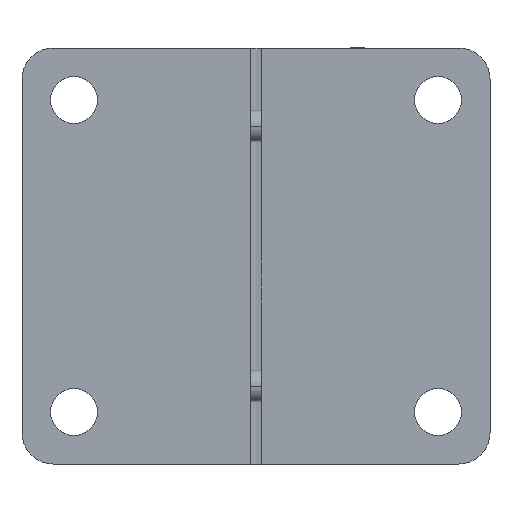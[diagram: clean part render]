
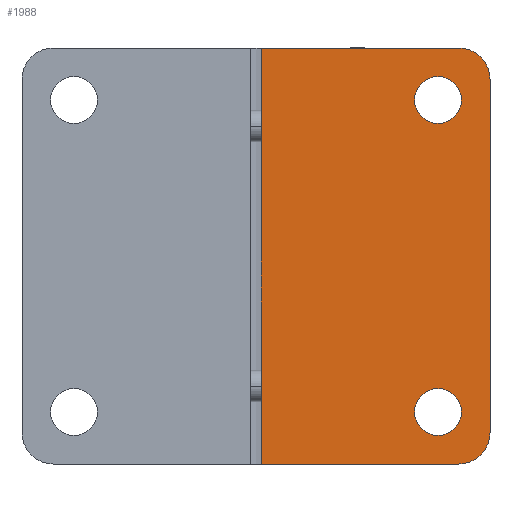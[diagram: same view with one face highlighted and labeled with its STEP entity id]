
A CAD part, front view. The second image highlights one B-rep face of the part: STEP entity #1988.
In plain terms, the highlighted planar face has unit normal (0, -1, 0).
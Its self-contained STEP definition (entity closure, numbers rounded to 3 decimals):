
#34 = DIRECTION ( 'NONE',  ( 1., 0., 0. ) ) ;
#260 = CARTESIAN_POINT ( 'NONE',  ( 35., -25., 74.5 ) ) ;
#342 = DIRECTION ( 'NONE',  ( 0., 0., -1. ) ) ;
#400 = ORIENTED_EDGE ( 'NONE', *, *, #3638, .F. ) ;
#416 = CARTESIAN_POINT ( 'NONE',  ( 35., -25., 65.5 ) ) ;
#421 = CIRCLE ( 'NONE', #3503, 4.5 ) ;
#433 = EDGE_CURVE ( 'NONE', #3967, #3325, #5855, .T. ) ;
#444 = ORIENTED_EDGE ( 'NONE', *, *, #2948, .T. ) ;
#670 = CARTESIAN_POINT ( 'NONE',  ( 39., -25., 74. ) ) ;
#732 = CIRCLE ( 'NONE', #1476, 4.5 ) ;
#748 = DIRECTION ( 'NONE',  ( 0., 0., -1. ) ) ;
#847 = AXIS2_PLACEMENT_3D ( 'NONE', #5738, #2951, #5778 ) ;
#852 = CARTESIAN_POINT ( 'NONE',  ( 1., -25., 80. ) ) ;
#862 = EDGE_CURVE ( 'NONE', #1994, #4818, #732, .T. ) ;
#893 = EDGE_LOOP ( 'NONE', ( #2890, #3674 ) ) ;
#987 = CIRCLE ( 'NONE', #5992, 6. ) ;
#997 = AXIS2_PLACEMENT_3D ( 'NONE', #2511, #5746, #1055 ) ;
#1055 = DIRECTION ( 'NONE',  ( 0., 0., -1. ) ) ;
#1092 = FACE_OUTER_BOUND ( 'NONE', #5487, .T. ) ;
#1099 = DIRECTION ( 'NONE',  ( 0., 0., -1. ) ) ;
#1101 = VECTOR ( 'NONE', #3318, 1000. ) ;
#1133 = VERTEX_POINT ( 'NONE', #1722 ) ;
#1249 = VERTEX_POINT ( 'NONE', #5650 ) ;
#1253 = CARTESIAN_POINT ( 'NONE',  ( 35., -25., 70. ) ) ;
#1383 = EDGE_CURVE ( 'NONE', #1249, #2323, #3600, .T. ) ;
#1441 = CIRCLE ( 'NONE', #2342, 4.5 ) ;
#1446 = CARTESIAN_POINT ( 'NONE',  ( 35., -25., 10. ) ) ;
#1458 = FACE_BOUND ( 'NONE', #5360, .T. ) ;
#1476 = AXIS2_PLACEMENT_3D ( 'NONE', #1446, #3812, #2389 ) ;
#1504 = VECTOR ( 'NONE', #342, 1000. ) ;
#1590 = CARTESIAN_POINT ( 'NONE',  ( 35., -25., 14.5 ) ) ;
#1722 = CARTESIAN_POINT ( 'NONE',  ( 39., -25., 80. ) ) ;
#1759 = DIRECTION ( 'NONE',  ( 0., 1., 0. ) ) ;
#1837 = CARTESIAN_POINT ( 'NONE',  ( 0., -25., 0. ) ) ;
#1900 = EDGE_CURVE ( 'NONE', #2323, #2056, #2350, .T. ) ;
#1910 = ORIENTED_EDGE ( 'NONE', *, *, #433, .T. ) ;
#1913 = CARTESIAN_POINT ( 'NONE',  ( 39., -25., 6. ) ) ;
#1988 = ADVANCED_FACE ( 'NONE', ( #2340, #1458, #1092 ), #2015, .T. ) ;
#1994 = VERTEX_POINT ( 'NONE', #1590 ) ;
#2015 = PLANE ( 'NONE',  #847 ) ;
#2056 = VERTEX_POINT ( 'NONE', #4450 ) ;
#2141 = CARTESIAN_POINT ( 'NONE',  ( 45., -25., 6. ) ) ;
#2158 = ORIENTED_EDGE ( 'NONE', *, *, #2643, .T. ) ;
#2323 = VERTEX_POINT ( 'NONE', #2141 ) ;
#2340 = FACE_BOUND ( 'NONE', #893, .T. ) ;
#2342 = AXIS2_PLACEMENT_3D ( 'NONE', #3081, #3542, #748 ) ;
#2350 = LINE ( 'NONE', #5677, #1101 ) ;
#2389 = DIRECTION ( 'NONE',  ( 0., 0., -1. ) ) ;
#2473 = EDGE_CURVE ( 'NONE', #2960, #1133, #4886, .T. ) ;
#2511 = CARTESIAN_POINT ( 'NONE',  ( 35., -25., 70. ) ) ;
#2536 = ORIENTED_EDGE ( 'NONE', *, *, #2473, .F. ) ;
#2643 = EDGE_CURVE ( 'NONE', #3325, #3967, #421, .T. ) ;
#2749 = LINE ( 'NONE', #3211, #1504 ) ;
#2890 = ORIENTED_EDGE ( 'NONE', *, *, #3316, .T. ) ;
#2948 = EDGE_CURVE ( 'NONE', #3256, #1249, #3269, .T. ) ;
#2951 = DIRECTION ( 'NONE',  ( 0., -1., 0. ) ) ;
#2960 = VERTEX_POINT ( 'NONE', #852 ) ;
#3081 = CARTESIAN_POINT ( 'NONE',  ( 35., -25., 10. ) ) ;
#3211 = CARTESIAN_POINT ( 'NONE',  ( 1., -25., 0. ) ) ;
#3256 = VERTEX_POINT ( 'NONE', #3945 ) ;
#3269 = LINE ( 'NONE', #1837, #5670 ) ;
#3307 = DIRECTION ( 'NONE',  ( 0., 0., 1. ) ) ;
#3308 = ORIENTED_EDGE ( 'NONE', *, *, #1383, .T. ) ;
#3316 = EDGE_CURVE ( 'NONE', #4818, #1994, #1441, .T. ) ;
#3318 = DIRECTION ( 'NONE',  ( 0., 0., 1. ) ) ;
#3325 = VERTEX_POINT ( 'NONE', #260 ) ;
#3503 = AXIS2_PLACEMENT_3D ( 'NONE', #1253, #1759, #5914 ) ;
#3542 = DIRECTION ( 'NONE',  ( 0., 1., 0. ) ) ;
#3600 = CIRCLE ( 'NONE', #4759, 6. ) ;
#3638 = EDGE_CURVE ( 'NONE', #1133, #2056, #987, .T. ) ;
#3674 = ORIENTED_EDGE ( 'NONE', *, *, #862, .T. ) ;
#3812 = DIRECTION ( 'NONE',  ( 0., 1., 0. ) ) ;
#3945 = CARTESIAN_POINT ( 'NONE',  ( 1., -25., 0. ) ) ;
#3967 = VERTEX_POINT ( 'NONE', #416 ) ;
#4176 = CARTESIAN_POINT ( 'NONE',  ( 0., -25., 80. ) ) ;
#4283 = DIRECTION ( 'NONE',  ( 0., -1., 0. ) ) ;
#4438 = VECTOR ( 'NONE', #34, 1000. ) ;
#4450 = CARTESIAN_POINT ( 'NONE',  ( 45., -25., 74. ) ) ;
#4484 = ORIENTED_EDGE ( 'NONE', *, *, #5905, .T. ) ;
#4759 = AXIS2_PLACEMENT_3D ( 'NONE', #1913, #4283, #3307 ) ;
#4818 = VERTEX_POINT ( 'NONE', #5946 ) ;
#4886 = LINE ( 'NONE', #4176, #4438 ) ;
#5323 = DIRECTION ( 'NONE',  ( 0., 1., 0. ) ) ;
#5360 = EDGE_LOOP ( 'NONE', ( #1910, #2158 ) ) ;
#5487 = EDGE_LOOP ( 'NONE', ( #400, #2536, #4484, #444, #3308, #6011 ) ) ;
#5650 = CARTESIAN_POINT ( 'NONE',  ( 39., -25., 0. ) ) ;
#5670 = VECTOR ( 'NONE', #5968, 1000. ) ;
#5677 = CARTESIAN_POINT ( 'NONE',  ( 45., -25., 0. ) ) ;
#5738 = CARTESIAN_POINT ( 'NONE',  ( 45., -25., 0. ) ) ;
#5746 = DIRECTION ( 'NONE',  ( 0., 1., 0. ) ) ;
#5778 = DIRECTION ( 'NONE',  ( 0., 0., -1. ) ) ;
#5855 = CIRCLE ( 'NONE', #997, 4.5 ) ;
#5905 = EDGE_CURVE ( 'NONE', #2960, #3256, #2749, .T. ) ;
#5914 = DIRECTION ( 'NONE',  ( 0., 0., -1. ) ) ;
#5946 = CARTESIAN_POINT ( 'NONE',  ( 35., -25., 5.5 ) ) ;
#5968 = DIRECTION ( 'NONE',  ( 1., 0., 0. ) ) ;
#5992 = AXIS2_PLACEMENT_3D ( 'NONE', #670, #5323, #1099 ) ;
#6011 = ORIENTED_EDGE ( 'NONE', *, *, #1900, .T. ) ;
